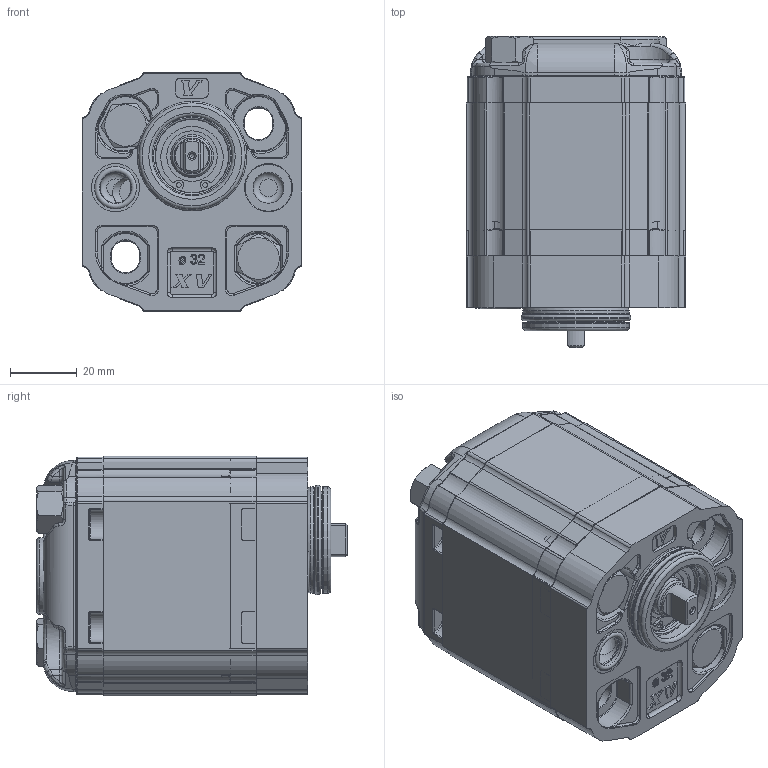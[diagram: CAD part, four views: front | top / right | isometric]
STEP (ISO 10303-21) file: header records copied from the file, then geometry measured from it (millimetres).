
FILE_DESCRIPTION( ( 'Unknown' ), '1' );
FILE_NAME( 'P:/montaggio_easy/output/STP/X1P2043DZZB.stp', 'Unknown', ( 'Unknown' ), ( 'Unknown' ), 'PSStep 14.0', 'Unknown', ' ' );
FILE_SCHEMA( ( 'AUTOMOTIVE_DESIGN { 1 0 10303 214 1 1 1 1 }' ) );
Length unit declared in the file: millimetre
Products named in the file (6): Assem1; X1P43; 1D; X1ZZH46; XP119-B
Bounding box: 66 x 93.5 x 72 mm (x, y, z)
Surface area: 125809.8 mm2
Topology: 10 solids, 12 shells, 2624 faces, 6500 edges, 4036 vertices
Faces by surface type: plane 958, cylinder 822, torus 354, bspline 252, extrusion 126, cone 104, sphere 8
Full cylindrical faces by diameter (mm): 1.447 x4, 1.5 x2, 2.5 x2, 3 x8, 8 x8, 8.5 x6, 9 x6, 9.3 x4, 9.5 x2, 10 x2, 10.5 x4, 11.965 x2, 12 x6, 12.7 x4, 12.923 x2, 14.5 x4, 14.95 x4, 15.115 x2, 15.181 x2, 19 x2, 20 x2, 22 x4, 22.2 x2, 23 x2, 24 x2, 29.4 x4, 32 x4, 32.96 x2
Entity records: 56315 total; most frequent: CARTESIAN_POINT 15812, DIRECTION 6177, ORIENTED_EDGE 6174, EDGE_CURVE 3087, AXIS2_PLACEMENT_3D 2332, VERTEX_POINT 1970, VECTOR 1513, EDGE_LOOP 1512
